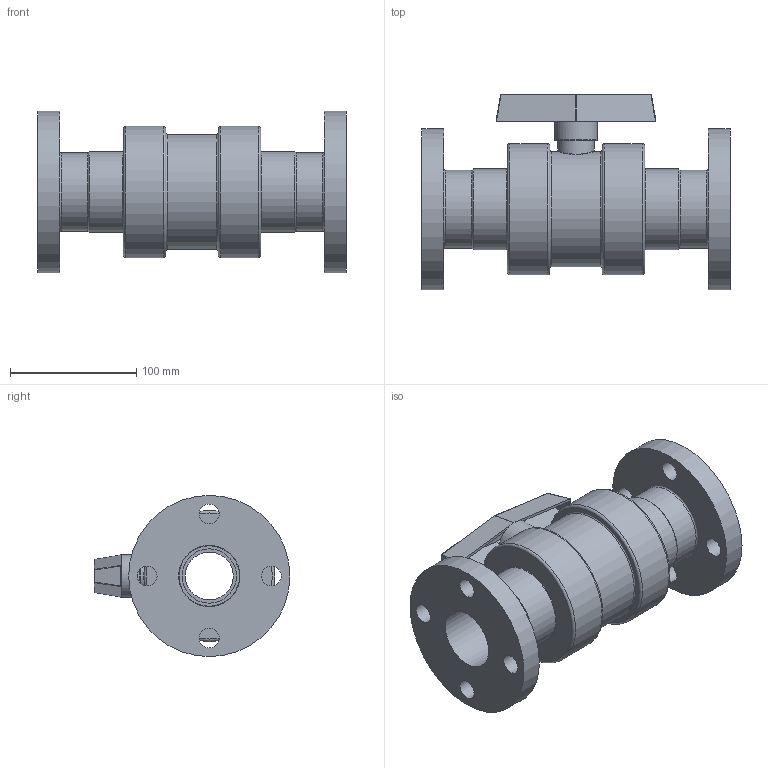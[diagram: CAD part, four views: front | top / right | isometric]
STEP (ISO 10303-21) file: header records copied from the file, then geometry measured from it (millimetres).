
FILE_DESCRIPTION (( 'STEP AP214' ), '1' );
FILE_NAME ('1-½ Inch -101 Series Ball Valves (Flange X Flange).STEP', '2020-10-27T12:15:42', ( '' ), ( '' ), 'SwSTEP 2.0', 'SolidWorks 2019', '' );
FILE_SCHEMA (( 'AUTOMOTIVE_DESIGN' ));
Length unit declared in the file: inch
Products named in the file (1): 1-½ Inch -101 Series Ball Valves (Flange X Flange)
Bounding box: 244.47 x 155.18 x 127.79 mm (x, y, z)
Volume: 1209499.1 mm3; surface area: 186922.4 mm2
Topology: 4 solids, 4 shells, 100 faces, 219 edges, 131 vertices
Faces by surface type: cylinder 41, plane 37, torus 11, sphere 6, cone 4, bspline 1
Full cylindrical faces by diameter (mm): 15.748 x8, 23.681 x1, 28.761 x2, 33.761 x1, 37.998 x1, 43.053 x2, 48.539 x2, 61.983 x2, 63.983 x2, 91.281 x1, 103.981 x2, 127.794 x2
Entity records: 3110 total; most frequent: CARTESIAN_POINT 1009, DIRECTION 442, ORIENTED_EDGE 326, AXIS2_PLACEMENT_3D 192, EDGE_LOOP 178, EDGE_CURVE 163, FACE_OUTER_BOUND 138, VERTEX_POINT 123
